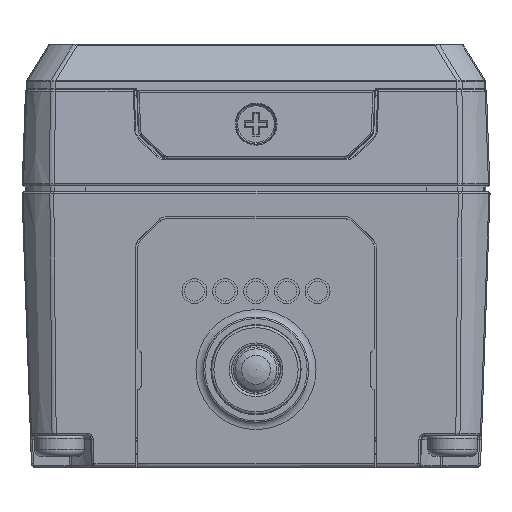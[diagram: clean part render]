
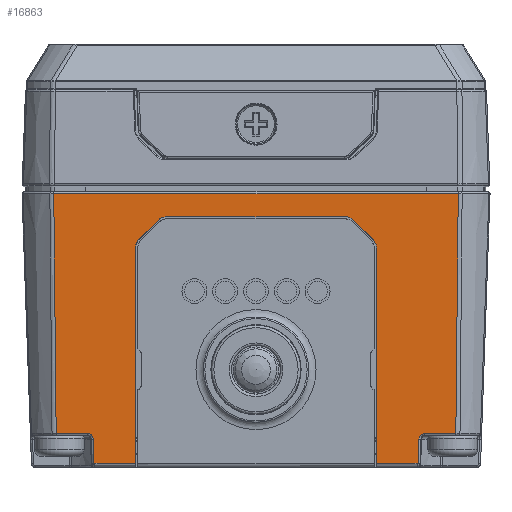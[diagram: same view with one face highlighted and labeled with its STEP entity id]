
A CAD part, top view. The second image highlights one B-rep face of the part: STEP entity #16863.
In plain terms, the highlighted planar face has unit normal (0, -0.035, 0.999).
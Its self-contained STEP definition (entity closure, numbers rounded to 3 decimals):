
#1298=ELLIPSE('',#59222,0.6,0.6);
#1299=ELLIPSE('',#59223,1.201,1.2);
#1300=ELLIPSE('',#59224,1.201,1.2);
#1301=ELLIPSE('',#59225,1.201,1.2);
#1302=ELLIPSE('',#59226,1.201,1.2);
#1303=ELLIPSE('',#59227,0.6,0.6);
#3035=B_SPLINE_CURVE_WITH_KNOTS('',3,(#103238,#103239,#103240,#103241,#103242,
#103243,#103244,#103245,#103246,#103247),.UNSPECIFIED.,.F.,.F.,(4,3,3,4),
(0.,0.444,0.928,1.),.UNSPECIFIED.);
#3036=B_SPLINE_CURVE_WITH_KNOTS('',3,(#103252,#103253,#103254,#103255),
 .UNSPECIFIED.,.F.,.F.,(4,4),(0.,1.),.UNSPECIFIED.);
#6196=LINE('',#103250,#9561);
#6197=LINE('',#103257,#9562);
#6198=LINE('',#103261,#9563);
#6199=LINE('',#103263,#9564);
#6200=LINE('',#103265,#9565);
#6201=LINE('',#103269,#9566);
#6202=LINE('',#103273,#9567);
#6203=LINE('',#103277,#9568);
#6204=LINE('',#103281,#9569);
#6205=LINE('',#103283,#9570);
#6206=LINE('',#103285,#9571);
#6207=LINE('',#103289,#9572);
#9561=VECTOR('',#72919,1.);
#9562=VECTOR('',#72920,1.);
#9563=VECTOR('',#72923,1.);
#9564=VECTOR('',#72924,1.);
#9565=VECTOR('',#72925,1.);
#9566=VECTOR('',#72928,1.);
#9567=VECTOR('',#72931,1.);
#9568=VECTOR('',#72934,1.);
#9569=VECTOR('',#72937,1.);
#9570=VECTOR('',#72938,1.);
#9571=VECTOR('',#72939,1.);
#9572=VECTOR('',#72942,1.);
#11067=PLANE('',#59228);
#13561=FACE_OUTER_BOUND('',#22489,.T.);
#16863=ADVANCED_FACE('',(#13561),#11067,.F.);
#22489=EDGE_LOOP('',(#35813,#35814,#35815,#35816,#35817,#35818,#35819,#35820,
#35821,#35822,#35823,#35824,#35825,#35826,#35827,#35828,#35829,#35830,#35831,
#35832));
#35813=ORIENTED_EDGE('',*,*,#50287,.T.);
#35814=ORIENTED_EDGE('',*,*,#50288,.T.);
#35815=ORIENTED_EDGE('',*,*,#50289,.T.);
#35816=ORIENTED_EDGE('',*,*,#50290,.T.);
#35817=ORIENTED_EDGE('',*,*,#50291,.T.);
#35818=ORIENTED_EDGE('',*,*,#50292,.T.);
#35819=ORIENTED_EDGE('',*,*,#50293,.T.);
#35820=ORIENTED_EDGE('',*,*,#50294,.T.);
#35821=ORIENTED_EDGE('',*,*,#50295,.T.);
#35822=ORIENTED_EDGE('',*,*,#50296,.T.);
#35823=ORIENTED_EDGE('',*,*,#50297,.T.);
#35824=ORIENTED_EDGE('',*,*,#50298,.T.);
#35825=ORIENTED_EDGE('',*,*,#50299,.T.);
#35826=ORIENTED_EDGE('',*,*,#50300,.T.);
#35827=ORIENTED_EDGE('',*,*,#50301,.T.);
#35828=ORIENTED_EDGE('',*,*,#50302,.T.);
#35829=ORIENTED_EDGE('',*,*,#50303,.T.);
#35830=ORIENTED_EDGE('',*,*,#50304,.T.);
#35831=ORIENTED_EDGE('',*,*,#50305,.T.);
#35832=ORIENTED_EDGE('',*,*,#50306,.T.);
#43076=VERTEX_POINT('',#103248);
#43077=VERTEX_POINT('',#103249);
#43078=VERTEX_POINT('',#103251);
#43079=VERTEX_POINT('',#103256);
#43080=VERTEX_POINT('',#103258);
#43081=VERTEX_POINT('',#103260);
#43082=VERTEX_POINT('',#103262);
#43083=VERTEX_POINT('',#103264);
#43084=VERTEX_POINT('',#103266);
#43085=VERTEX_POINT('',#103268);
#43086=VERTEX_POINT('',#103270);
#43087=VERTEX_POINT('',#103272);
#43088=VERTEX_POINT('',#103274);
#43089=VERTEX_POINT('',#103276);
#43090=VERTEX_POINT('',#103278);
#43091=VERTEX_POINT('',#103280);
#43092=VERTEX_POINT('',#103282);
#43093=VERTEX_POINT('',#103284);
#43094=VERTEX_POINT('',#103286);
#43095=VERTEX_POINT('',#103288);
#50287=EDGE_CURVE('',#43076,#43077,#3035,.T.);
#50288=EDGE_CURVE('',#43077,#43078,#6196,.T.);
#50289=EDGE_CURVE('',#43078,#43079,#3036,.T.);
#50290=EDGE_CURVE('',#43079,#43080,#6197,.T.);
#50291=EDGE_CURVE('',#43080,#43081,#1298,.T.);
#50292=EDGE_CURVE('',#43081,#43082,#6198,.T.);
#50293=EDGE_CURVE('',#43082,#43083,#6199,.T.);
#50294=EDGE_CURVE('',#43083,#43084,#6200,.T.);
#50295=EDGE_CURVE('',#43084,#43085,#1299,.T.);
#50296=EDGE_CURVE('',#43085,#43086,#6201,.T.);
#50297=EDGE_CURVE('',#43086,#43087,#1300,.T.);
#50298=EDGE_CURVE('',#43087,#43088,#6202,.T.);
#50299=EDGE_CURVE('',#43088,#43089,#1301,.T.);
#50300=EDGE_CURVE('',#43089,#43090,#6203,.T.);
#50301=EDGE_CURVE('',#43090,#43091,#1302,.T.);
#50302=EDGE_CURVE('',#43091,#43092,#6204,.T.);
#50303=EDGE_CURVE('',#43092,#43093,#6205,.T.);
#50304=EDGE_CURVE('',#43093,#43094,#6206,.T.);
#50305=EDGE_CURVE('',#43094,#43095,#1303,.T.);
#50306=EDGE_CURVE('',#43095,#43076,#6207,.T.);
#59222=AXIS2_PLACEMENT_3D('',#103259,#72921,#72922);
#59223=AXIS2_PLACEMENT_3D('',#103267,#72926,#72927);
#59224=AXIS2_PLACEMENT_3D('',#103271,#72929,#72930);
#59225=AXIS2_PLACEMENT_3D('',#103275,#72932,#72933);
#59226=AXIS2_PLACEMENT_3D('',#103279,#72935,#72936);
#59227=AXIS2_PLACEMENT_3D('',#103287,#72940,#72941);
#59228=AXIS2_PLACEMENT_3D('',#103290,#72943,#72944);
#72919=DIRECTION('',(-1.,0.,0.));
#72920=DIRECTION('',(1.,0.,0.));
#72921=DIRECTION('',(0.,0.035,-0.999));
#72922=DIRECTION('',(0.,0.999,0.035));
#72923=DIRECTION('',(0.035,-0.999,-0.035));
#72924=DIRECTION('',(1.,0.,0.));
#72925=DIRECTION('',(0.,0.999,0.035));
#72926=DIRECTION('',(0.,0.035,-0.999));
#72927=DIRECTION('',(0.924,-0.382,-0.013));
#72928=DIRECTION('',(0.707,0.707,0.024));
#72929=DIRECTION('',(0.,0.035,-0.999));
#72930=DIRECTION('',(-0.383,0.923,0.032));
#72931=DIRECTION('',(1.,0.,0.));
#72932=DIRECTION('',(0.,0.035,-0.999));
#72933=DIRECTION('',(0.383,0.923,0.032));
#72934=DIRECTION('',(0.707,-0.707,-0.024));
#72935=DIRECTION('',(0.,0.035,-0.999));
#72936=DIRECTION('',(-0.924,-0.382,-0.013));
#72937=DIRECTION('',(0.,-0.999,-0.035));
#72938=DIRECTION('',(1.,0.,0.));
#72939=DIRECTION('',(0.035,0.999,0.035));
#72940=DIRECTION('',(0.,0.035,-0.999));
#72941=DIRECTION('',(0.,-0.999,-0.035));
#72942=DIRECTION('',(1.,0.,0.));
#72943=DIRECTION('',(0.,0.035,-0.999));
#72944=DIRECTION('',(0.,-0.999,-0.035));
#103238=CARTESIAN_POINT('',(39.569,2.399,62.507));
#103239=CARTESIAN_POINT('',(39.606,5.966,62.63));
#103240=CARTESIAN_POINT('',(39.643,9.534,62.754));
#103241=CARTESIAN_POINT('',(39.679,13.101,62.877));
#103242=CARTESIAN_POINT('',(39.718,16.987,63.011));
#103243=CARTESIAN_POINT('',(39.757,20.872,63.146));
#103244=CARTESIAN_POINT('',(39.795,24.758,63.28));
#103245=CARTESIAN_POINT('',(39.8,25.338,63.3));
#103246=CARTESIAN_POINT('',(39.806,25.918,63.32));
#103247=CARTESIAN_POINT('',(39.812,26.499,63.34));
#103248=CARTESIAN_POINT('',(39.569,2.399,62.507));
#103249=CARTESIAN_POINT('',(39.812,26.499,63.34));
#103250=CARTESIAN_POINT('',(-0.889,26.499,63.34));
#103251=CARTESIAN_POINT('',(-0.887,26.499,63.34));
#103252=CARTESIAN_POINT('',(-0.887,26.499,63.34));
#103253=CARTESIAN_POINT('',(-0.809,18.466,63.062));
#103254=CARTESIAN_POINT('',(-0.728,10.432,62.785));
#103255=CARTESIAN_POINT('',(-0.645,2.399,62.507));
#103256=CARTESIAN_POINT('',(-0.645,2.399,62.507));
#103257=CARTESIAN_POINT('',(2.476,2.399,62.507));
#103258=CARTESIAN_POINT('',(2.476,2.399,62.507));
#103259=CARTESIAN_POINT('',(2.476,1.799,62.486));
#103260=CARTESIAN_POINT('',(3.076,1.82,62.487));
#103261=CARTESIAN_POINT('',(3.156,-0.47,62.408));
#103262=CARTESIAN_POINT('',(3.161,-0.608,62.403));
#103263=CARTESIAN_POINT('',(45.46,-0.608,62.403));
#103264=CARTESIAN_POINT('',(7.312,-0.608,62.403));
#103265=CARTESIAN_POINT('',(7.312,-0.994,62.389));
#103266=CARTESIAN_POINT('',(7.312,21.036,63.151));
#103267=CARTESIAN_POINT('',(8.513,21.035,63.151));
#103268=CARTESIAN_POINT('',(7.663,21.883,63.181));
#103269=CARTESIAN_POINT('',(8.21,22.43,63.2));
#103270=CARTESIAN_POINT('',(9.634,23.854,63.249));
#103271=CARTESIAN_POINT('',(10.483,23.006,63.22));
#103272=CARTESIAN_POINT('',(10.483,24.206,63.261));
#103273=CARTESIAN_POINT('',(31.612,24.206,63.261));
#103274=CARTESIAN_POINT('',(28.442,24.206,63.261));
#103275=CARTESIAN_POINT('',(28.442,23.006,63.22));
#103276=CARTESIAN_POINT('',(29.291,23.854,63.249));
#103277=CARTESIAN_POINT('',(42.858,10.287,62.78));
#103278=CARTESIAN_POINT('',(31.262,21.883,63.181));
#103279=CARTESIAN_POINT('',(30.412,21.035,63.151));
#103280=CARTESIAN_POINT('',(31.613,21.036,63.151));
#103281=CARTESIAN_POINT('',(31.613,-0.994,62.389));
#103282=CARTESIAN_POINT('',(31.613,-0.608,62.403));
#103283=CARTESIAN_POINT('',(45.46,-0.608,62.403));
#103284=CARTESIAN_POINT('',(35.764,-0.608,62.403));
#103285=CARTESIAN_POINT('',(35.832,1.341,62.47));
#103286=CARTESIAN_POINT('',(35.849,1.82,62.487));
#103287=CARTESIAN_POINT('',(36.449,1.799,62.486));
#103288=CARTESIAN_POINT('',(36.449,2.399,62.507));
#103289=CARTESIAN_POINT('',(39.567,2.399,62.507));
#103290=CARTESIAN_POINT('',(45.46,1.006,62.459));
